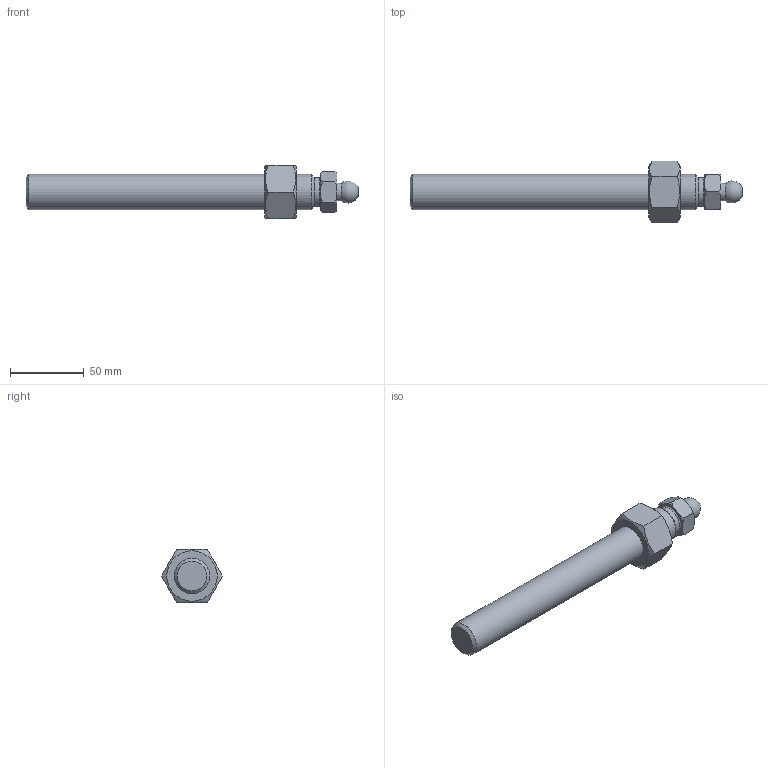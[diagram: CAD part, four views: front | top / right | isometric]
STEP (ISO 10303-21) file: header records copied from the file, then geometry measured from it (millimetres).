
FILE_DESCRIPTION(('STEP AP203'), '1');
FILE_NAME('A00020.124200', '', ('UNSPECIFIED'), ('UNSPECIFIED'), 'C3D Converter', 'C3D Toolkit', '');
FILE_SCHEMA(('CONFIG_CONTROL_DESIGN'));
Length unit declared in the file: millimetre
Products named in the file (2): A00020.120100
Assembly tree (1 placements, depth 2):
  A00020.120100
    (unnamed)
Bounding box: 225.3 x 41.57 x 36 mm (x, y, z)
Volume: 113324.1 mm3; surface area: 22879.4 mm2
Topology: 2 solids, 2 shells, 43 faces, 105 edges, 69 vertices
Faces by surface type: plane 19, cone 18, cylinder 4, torus 1, sphere 1
Full cylindrical faces by diameter (mm): 12 x1, 19.6 x1, 20.752 x1, 24 x1
Entity records: 2571 total; most frequent: CARTESIAN_POINT 1305, ORIENTED_EDGE 186, DIRECTION 180, EDGE_CURVE 93, AXIS2_PLACEMENT_3D 78, VERTEX_POINT 69, EDGE_LOOP 60, FACE_BOUND 44
